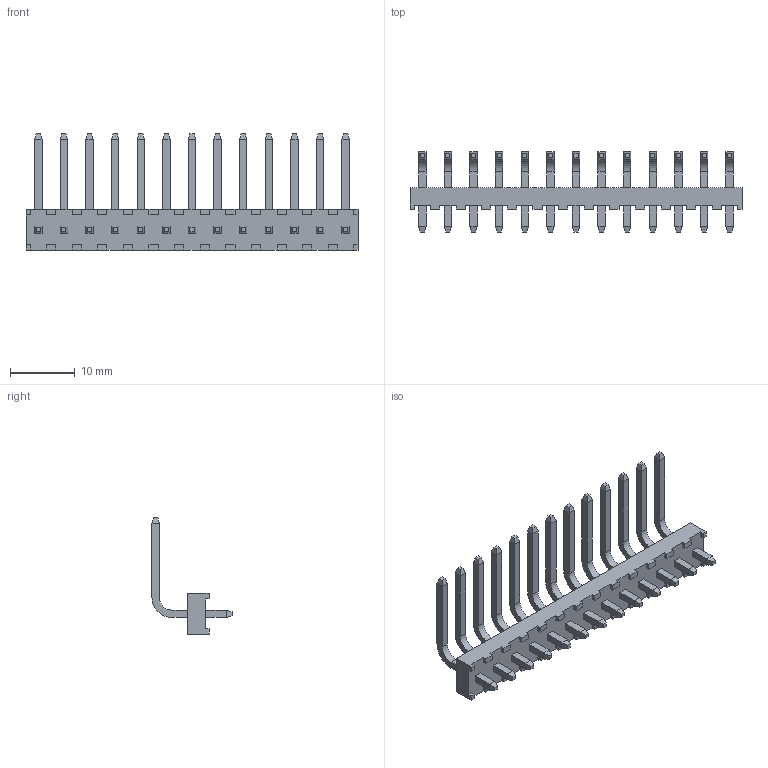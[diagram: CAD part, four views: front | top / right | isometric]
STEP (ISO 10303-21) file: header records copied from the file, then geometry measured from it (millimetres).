
FILE_DESCRIPTION((''),'2;1');
FILE_NAME('026613130','2015-04-21T',('me'),(''),'PRO/ENGINEER BY PARAMETRIC TECHNOLOGY CORPORATION, 2011490','PRO/ENGINEER BY PARAMETRIC TECHNOLOGY CORPORATION, 2011490','');
FILE_SCHEMA(('CONFIG_CONTROL_DESIGN'));
Length unit declared in the file: inch
Products named in the file (1): 026613130
Bounding box: 51.36 x 12.38 x 18.03 mm (x, y, z)
Volume: 1303.7 mm3; surface area: 2349.2 mm2
Topology: 1 solids, 1 shells, 400 faces, 1038 edges, 666 vertices
Faces by surface type: plane 374, cylinder 26
Entity records: 11920 total; most frequent: CARTESIAN_POINT 2079, ORIENTED_EDGE 2024, DIRECTION 1918, EDGE_CURVE 1012, VECTOR 960, LINE 960, VERTEX_POINT 640, AXIS2_PLACEMENT_3D 479
